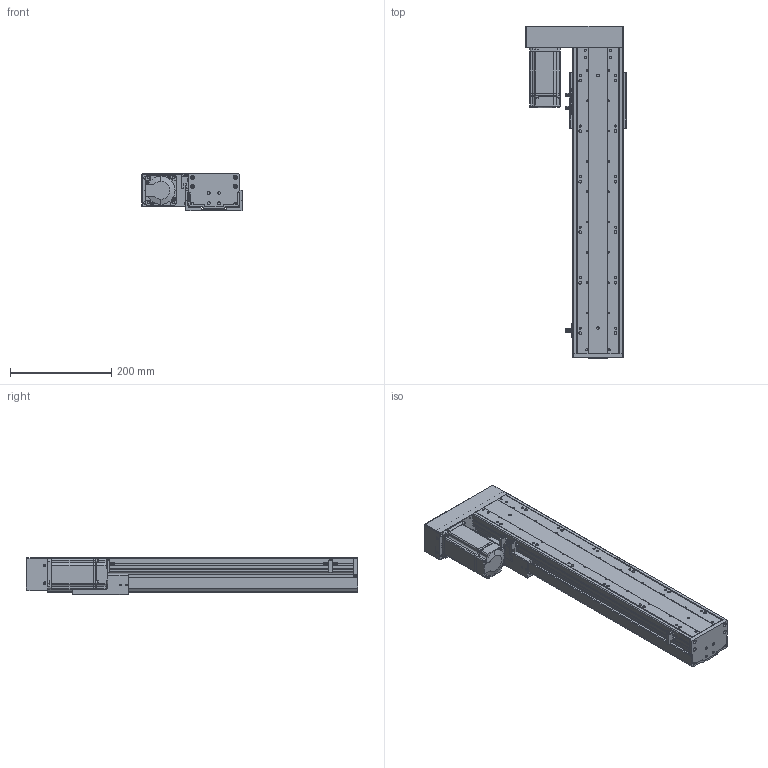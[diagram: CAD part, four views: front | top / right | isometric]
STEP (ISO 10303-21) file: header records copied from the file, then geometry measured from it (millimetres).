
FILE_DESCRIPTION (( 'STEP AP203' ), '1' );
FILE_NAME ('RY100FBS-L1610-300-LK(15双轨）.SLDASM_400.step', '2021-02-23T01:49:14', ( '盈信电脑' ), ( '东莞市道滘镇水果街19号' ), 'SwSTEP 2.0', 'SolidWorks 2012', '' );
FILE_SCHEMA (( 'CONFIG_CONTROL_DESIGN' ));
Products named in the file (14): RY100FBS-酘衵殏萇儂啣; RY100FBS-L1610-300-LK(15双轨）.SLDASM_400; RY100FBS-酘衵殏萇儂欶; RY100FBS-后盖板(15双轨）; 15; 侂狟400W侜督萇儂; RY100FBS-嫖萇覜茼え; 覜茼ん672; 滅袉蝶18-24; RY100FBS-铝滑块（16丝杆）; 滅袉蝶18-15; RY100FBS-转折支撑座（15双轨）; RY100FBS-300蛌殏菁釱-LK_400; RY100FBS-300蛌殏奻裔啣-LK_400
Assembly tree (15 placements, depth 3):
  RY100FBS-L1610-300-LK(15双轨）.SLDASM_400
    RY100FBS-300蛌殏菁釱-LK_400
    RY100FBS-300蛌殏奻裔啣-LK_400
    RY100FBS-转折支撑座（15双轨）
    滅袉蝶18-24
    滅袉蝶18-15
    RY100FBS-铝滑块（16丝杆）
    覜茼ん672  x3
    RY100FBS-嫖萇覜茼え
    侂狟400W侜督萇儂
      15
    RY100FBS-后盖板(15双轨）
    RY100FBS-酘衵殏萇儂啣
    RY100FBS-酘衵殏萇儂欶
Bounding box: 198.75 x 657 x 74 mm (x, y, z)
Volume: 2035378.5 mm3; surface area: 728575.4 mm2
Topology: 14 solids, 14 shells, 1581 faces, 4448 edges, 2882 vertices
Faces by surface type: cylinder 741, plane 688, cone 126, bspline 26
Entity records: 49439 total; most frequent: CARTESIAN_POINT 10490, DIRECTION 7927, ORIENTED_EDGE 7772, EDGE_CURVE 3886, AXIS2_PLACEMENT_3D 2851, VERTEX_POINT 2562, VECTOR 2225, LINE 2225
